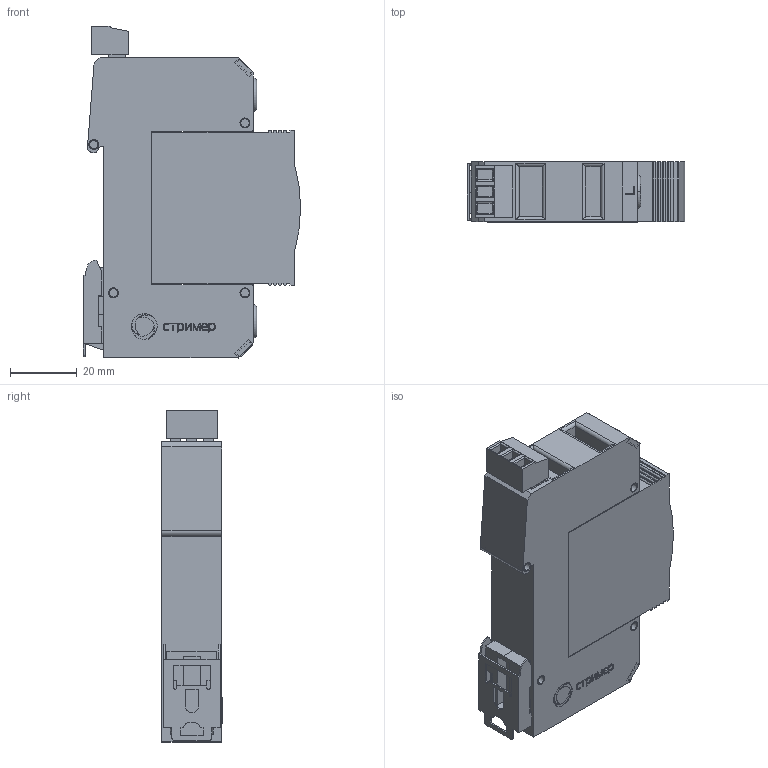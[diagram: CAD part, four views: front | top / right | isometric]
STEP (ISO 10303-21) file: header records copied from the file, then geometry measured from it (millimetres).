
FILE_DESCRIPTION(('TFLEX Exchange Step'),'2;1');
FILE_NAME('X2\041004400442\X0\.121_101.stp', '2022-07-15T15:57:07+03:00',('Pavel Oborin'),('Unknown organisation'),'TFLEX Exchange 2019.2','T-FLEX CAD','Unknown authorisation');
FILE_SCHEMA( ('AUTOMOTIVE_DESIGN { 1 0 10303 214 1 1 1 1 }') );
Length unit declared in the file: millimetre
Products named in the file (9): 0; Сигнализация:3; Сигнализация; Буква L; буква N; Планка; ВНЕШНИЙ МОДУЛЬ 18; Корпус 18; Арт.121_101
Assembly tree (10 placements, depth 3):
  Арт.121_101
    0
    Сигнализация
      Сигнализация:3  x3
    Буква L
    буква N
    Планка
    ВНЕШНИЙ МОДУЛЬ 18
    Корпус 18
Bounding box: 65.19 x 18.1 x 99.65 mm (x, y, z)
Volume: 85704.7 mm3; surface area: 25430.2 mm2
Topology: 35 solids, 35 shells, 571 faces, 1398 edges, 916 vertices
Faces by surface type: plane 383, cylinder 147, bspline 31, torus 7, cone 3
Full cylindrical faces by diameter (mm): 1.6 x3, 3 x3
Entity records: 19604 total; most frequent: CARTESIAN_POINT 6211, ORIENTED_EDGE 2700, DIRECTION 2645, EDGE_CURVE 1350, VECTOR 1021, LINE 1021, VERTEX_POINT 884, AXIS2_PLACEMENT_3D 812
